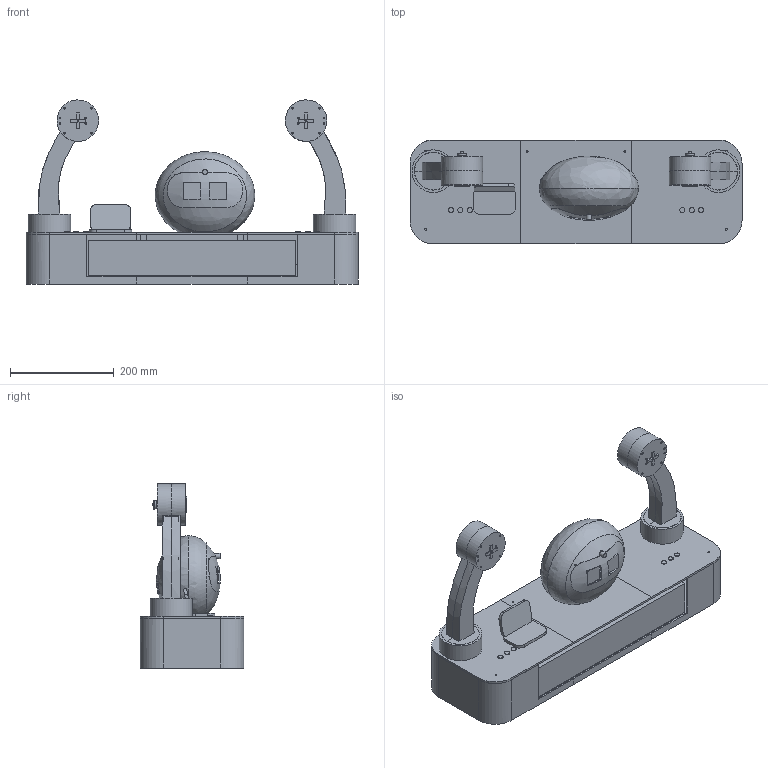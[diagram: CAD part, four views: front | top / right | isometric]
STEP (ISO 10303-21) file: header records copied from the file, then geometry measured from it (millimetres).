
FILE_DESCRIPTION(('SolidCraft model'),'2;1');
FILE_NAME('P1_closed_base.step','',(''),(''),'SolidCraft','SolidCraft','');
FILE_SCHEMA(('AP242_MANAGED_MODEL_BASED_3D_ENGINEERING_MIM_LF { 1 0 10303 442 1 1 4 }'));
Length unit declared in the file: millimetre
Products named in the file (96): fold_wing_v7_P1_assembly; PILL_BASE_TRAY_1; PILL_BASE_TRAY_1_part; PILL_BASE_LID_1; PILL_BASE_LID_1_part; PILL_BASE_TRAY_2; PILL_BASE_TRAY_2_part; PILL_BASE_LID_2; PILL_BASE_LID_2_part; PILL_BASE_TRAY_3; PILL_BASE_TRAY_3_part; PILL_BASE_LID_3; PILL_BASE_LID_3_part; SEAM_PLATE_1; SEAM_PLATE_1_part; SEAM_PLATE_2; SEAM_PLATE_2_part; BA_R9_ENVELOPE; BA_R9_ENVELOPE_part; PEBBLE_HEAD_FRONT_TRIAL; PEBBLE_HEAD_FRONT_TRIAL_part; PEBBLE_HEAD_REAR_TRIAL; PEBBLE_HEAD_REAR_TRIAL_part; CAPSULE_VISOR_TRIAL; CAPSULE_VISOR_TRIAL_part; EYE_1_DISPLAY_ONLY; EYE_1_DISPLAY_ONLY_part; EYE_2_DISPLAY_ONLY; EYE_2_DISPLAY_ONLY_part; CAMERA_LENS_TRIAL; CAMERA_LENS_TRIAL_part; JETSON_RESERVED_ZONE; JETSON_RESERVED_ZONE_part; POWER_RESERVED_ZONE; POWER_RESERVED_ZONE_part; BATTERY_RESERVED_ZONE; BATTERY_RESERVED_ZONE_part; L_ROUND_YAW_COLLAR_TRIAL; L_ROUND_YAW_COLLAR_TRIAL_part; L_YAW_SERVO_INSIDE_BASE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
Assembly tree (95 placements, depth 4):
  fold_wing_v7_P1_assembly
    fold_wing_v7_P1_assembly
      PILL_BASE_TRAY_1
        PILL_BASE_TRAY_1_part
      PILL_BASE_LID_1
        PILL_BASE_LID_1_part
      PILL_BASE_TRAY_2
        PILL_BASE_TRAY_2_part
      PILL_BASE_LID_2
        PILL_BASE_LID_2_part
      PILL_BASE_TRAY_3
        PILL_BASE_TRAY_3_part
      PILL_BASE_LID_3
        PILL_BASE_LID_3_part
      SEAM_PLATE_1
        SEAM_PLATE_1_part
      SEAM_PLATE_2
        SEAM_PLATE_2_part
      BA_R9_ENVELOPE
        BA_R9_ENVELOPE_part
      PEBBLE_HEAD_FRONT_TRIAL
        PEBBLE_HEAD_FRONT_TRIAL_part
      PEBBLE_HEAD_REAR_TRIAL
        PEBBLE_HEAD_REAR_TRIAL_part
      CAPSULE_VISOR_TRIAL
        CAPSULE_VISOR_TRIAL_part
      EYE_1_DISPLAY_ONLY
        EYE_1_DISPLAY_ONLY_part
      EYE_2_DISPLAY_ONLY
        EYE_2_DISPLAY_ONLY_part
      CAMERA_LENS_TRIAL
        CAMERA_LENS_TRIAL_part
      JETSON_RESERVED_ZONE
        JETSON_RESERVED_ZONE_part
      POWER_RESERVED_ZONE
        POWER_RESERVED_ZONE_part
      BATTERY_RESERVED_ZONE
        BATTERY_RESERVED_ZONE_part
      L_ROUND_YAW_COLLAR_TRIAL
        L_ROUND_YAW_COLLAR_TRIAL_part
      L_YAW_SERVO_INSIDE_BASE
        L_YAW_SERVO_INSIDE_BASE_part
      L_CURVED_ARM_CORE_FRONT
        L_CURVED_ARM_CORE_FRONT_part
      L_CURVED_ARM_CORE_REAR
        L_CURVED_ARM_CORE_REAR_part
      L_PITCH_SERVO_EMBEDDED
        L_PITCH_SERVO_EMBEDDED_part
      L_SHORT_SERVO_SHAFT_TRIAL
        L_SHORT_SERVO_SHAFT_TRIAL_part
      L_WRAP_HAND_FRONT
        L_WRAP_HAND_FRONT_part
      L_WRAP_HAND_REAR
        L_WRAP_HAND_REAR_part
      L_ACTUAL_CROSS_HORN_PLACEHOLDER
        L_ACTUAL_CROSS_HORN_PLACEHOLDER_part
      L_F625ZZ_BEARING
        L_F625ZZ_BEARING_part
      L_FIXED_SUPPORT_STUB_TRIAL
        L_FIXED_SUPPORT_STUB_TRIAL_part
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Bounding box: 640 x 200 x 355 mm (x, y, z)
Volume: 5287186.9 mm3; surface area: 1443754.9 mm2
Topology: 43 solids, 43 shells, 614 faces, 1820 edges, 1293 vertices
Faces by surface type: plane 397, cylinder 173, bspline 44
Full cylindrical faces by diameter (mm): 3.2 x2, 3.4 x52, 4.9 x2, 5 x4, 6 x2, 8 x2, 9 x2, 10 x7, 16 x2, 18 x2, 73 x2, 80 x4, 82 x2
Entity records: 19937 total; most frequent: CARTESIAN_POINT 7460, ORIENTED_EDGE 3632, EDGE_CURVE 1816, VERTEX_POINT 1293, LINE 874, EDGE_LOOP 773, FACE_BOUND 773, ADVANCED_FACE 614
